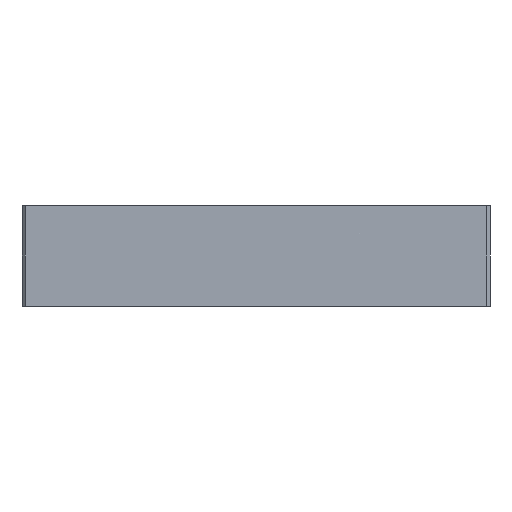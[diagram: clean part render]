
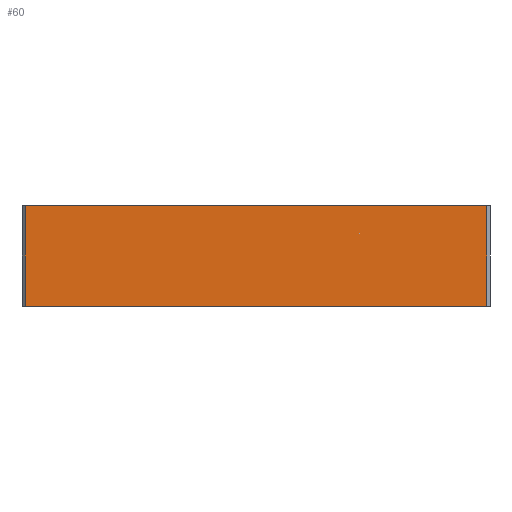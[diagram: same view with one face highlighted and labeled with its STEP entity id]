
A CAD part, front view. The second image highlights one B-rep face of the part: STEP entity #60.
In plain terms, the highlighted planar face has unit normal (0, -1, 0).
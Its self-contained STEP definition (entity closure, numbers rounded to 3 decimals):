
#60 = ADVANCED_FACE ( 'NONE', ( #454 ), #2886, .F. ) ;
#89 = LINE ( 'NONE', #785, #4464 ) ;
#100 = CARTESIAN_POINT ( 'NONE',  ( -34.5, -35., 7.5 ) ) ;
#120 = EDGE_CURVE ( 'NONE', #6140, #3380, #3042, .T. ) ;
#197 = LINE ( 'NONE', #3178, #1940 ) ;
#454 = FACE_OUTER_BOUND ( 'NONE', #6471, .T. ) ;
#526 = LINE ( 'NONE', #7707, #7213 ) ;
#785 = CARTESIAN_POINT ( 'NONE',  ( 34.5, -35., 7.5 ) ) ;
#1197 = CARTESIAN_POINT ( 'NONE',  ( 34.5, -35., 7.5 ) ) ;
#1418 = EDGE_CURVE ( 'NONE', #3380, #3900, #526, .T. ) ;
#1940 = VECTOR ( 'NONE', #4279, 1000. ) ;
#2395 = DIRECTION ( 'NONE',  ( 0., 1., 0. ) ) ;
#2425 = ORIENTED_EDGE ( 'NONE', *, *, #1418, .T. ) ;
#2558 = ORIENTED_EDGE ( 'NONE', *, *, #120, .T. ) ;
#2886 = PLANE ( 'NONE',  #3065 ) ;
#3042 = LINE ( 'NONE', #100, #7745 ) ;
#3065 = AXIS2_PLACEMENT_3D ( 'NONE', #4692, #2395, #4327 ) ;
#3178 = CARTESIAN_POINT ( 'NONE',  ( -35., -35., 7.5 ) ) ;
#3380 = VERTEX_POINT ( 'NONE', #3981 ) ;
#3688 = ORIENTED_EDGE ( 'NONE', *, *, #5276, .T. ) ;
#3900 = VERTEX_POINT ( 'NONE', #7717 ) ;
#3981 = CARTESIAN_POINT ( 'NONE',  ( -34.5, -35., -7.5 ) ) ;
#4279 = DIRECTION ( 'NONE',  ( 1., 0., 0. ) ) ;
#4327 = DIRECTION ( 'NONE',  ( -1., 0., 0. ) ) ;
#4464 = VECTOR ( 'NONE', #5520, 1000. ) ;
#4692 = CARTESIAN_POINT ( 'NONE',  ( -35., -35., 7.5 ) ) ;
#5268 = EDGE_CURVE ( 'NONE', #6140, #7657, #197, .T. ) ;
#5276 = EDGE_CURVE ( 'NONE', #3900, #7657, #89, .T. ) ;
#5374 = DIRECTION ( 'NONE',  ( 1., 0., 0. ) ) ;
#5459 = DIRECTION ( 'NONE',  ( 0., 0., -1. ) ) ;
#5520 = DIRECTION ( 'NONE',  ( 0., 0., 1. ) ) ;
#6140 = VERTEX_POINT ( 'NONE', #7645 ) ;
#6471 = EDGE_LOOP ( 'NONE', ( #7215, #2558, #2425, #3688 ) ) ;
#7213 = VECTOR ( 'NONE', #5374, 1000. ) ;
#7215 = ORIENTED_EDGE ( 'NONE', *, *, #5268, .F. ) ;
#7645 = CARTESIAN_POINT ( 'NONE',  ( -34.5, -35., 7.5 ) ) ;
#7657 = VERTEX_POINT ( 'NONE', #1197 ) ;
#7707 = CARTESIAN_POINT ( 'NONE',  ( -35., -35., -7.5 ) ) ;
#7717 = CARTESIAN_POINT ( 'NONE',  ( 34.5, -35., -7.5 ) ) ;
#7745 = VECTOR ( 'NONE', #5459, 1000. ) ;
